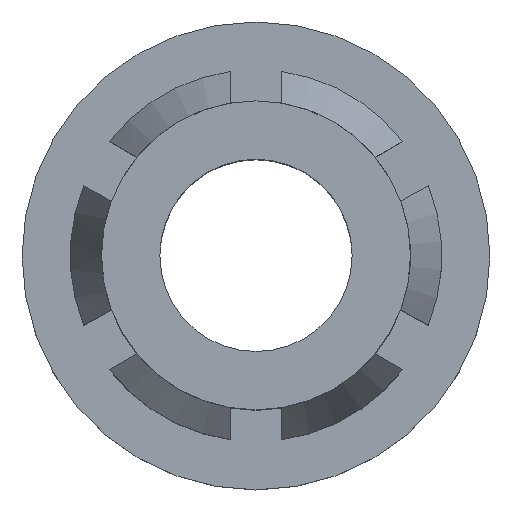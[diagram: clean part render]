
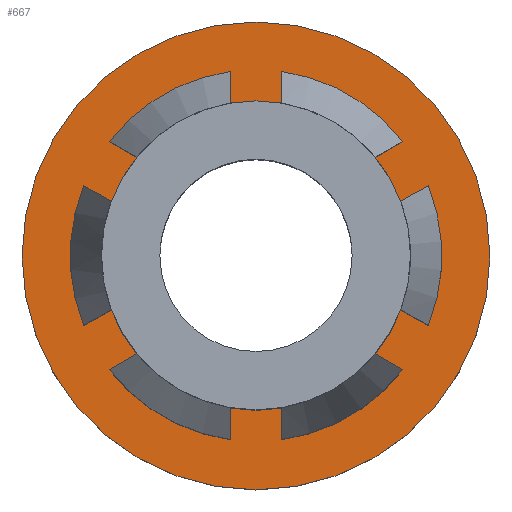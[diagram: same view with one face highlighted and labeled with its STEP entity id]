
A CAD part, top view. The second image highlights one B-rep face of the part: STEP entity #667.
In plain terms, the highlighted planar face has unit normal (0, 0, 1).
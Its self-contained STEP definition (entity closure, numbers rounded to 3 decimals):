
#103 = EDGE_CURVE ( 'NONE', #428, #428, #1203, .T. ) ;
#182 = CARTESIAN_POINT ( 'NONE',  ( 6.188, 0., -18.001 ) ) ;
#183 = DIRECTION ( 'NONE',  ( -1., 0., 0. ) ) ;
#246 = DIRECTION ( 'NONE',  ( -1., 0., 0. ) ) ;
#285 = ORIENTED_EDGE ( 'NONE', *, *, #1392, .T. ) ;
#302 = ORIENTED_EDGE ( 'NONE', *, *, #103, .F. ) ;
#364 = DIRECTION ( 'NONE',  ( 0., 0., -1. ) ) ;
#379 = DIRECTION ( 'NONE',  ( 0., 0., -1. ) ) ;
#390 = AXIS2_PLACEMENT_3D ( 'NONE', #620, #364, #1598 ) ;
#428 = VERTEX_POINT ( 'NONE', #182 ) ;
#505 = CARTESIAN_POINT ( 'NONE',  ( 8.938, 0., -18.001 ) ) ;
#568 = PLANE ( 'NONE',  #639 ) ;
#585 = CARTESIAN_POINT ( 'NONE',  ( 12.113, 0., -18.001 ) ) ;
#620 = CARTESIAN_POINT ( 'NONE',  ( 8.938, 0., -18.001 ) ) ;
#639 = AXIS2_PLACEMENT_3D ( 'NONE', #585, #379, #246 ) ;
#667 = ADVANCED_FACE ( 'NONE', ( #1214, #1493 ), #568, .F. ) ;
#698 = CIRCLE ( 'NONE', #390, 1.816 ) ;
#819 = VERTEX_POINT ( 'NONE', #864 ) ;
#864 = CARTESIAN_POINT ( 'NONE',  ( 7.122, 0., -18.001 ) ) ;
#1144 = AXIS2_PLACEMENT_3D ( 'NONE', #505, #1365, #183 ) ;
#1203 = CIRCLE ( 'NONE', #1144, 2.75 ) ;
#1214 = FACE_BOUND ( 'NONE', #1577, .T. ) ;
#1309 = EDGE_LOOP ( 'NONE', ( #302 ) ) ;
#1365 = DIRECTION ( 'NONE',  ( 0., 0., -1. ) ) ;
#1392 = EDGE_CURVE ( 'NONE', #819, #819, #698, .T. ) ;
#1493 = FACE_OUTER_BOUND ( 'NONE', #1309, .T. ) ;
#1577 = EDGE_LOOP ( 'NONE', ( #285 ) ) ;
#1598 = DIRECTION ( 'NONE',  ( -1., 0., 0. ) ) ;
